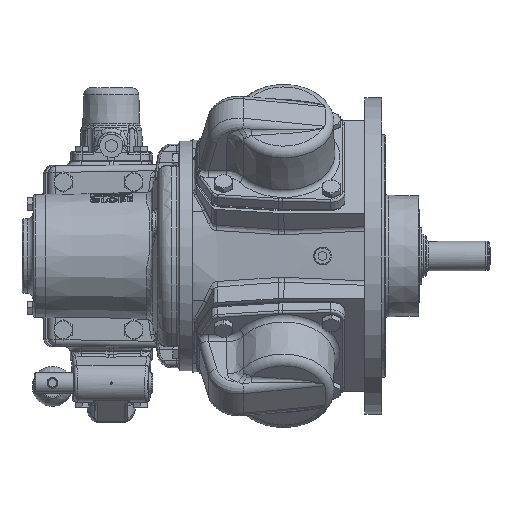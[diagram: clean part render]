
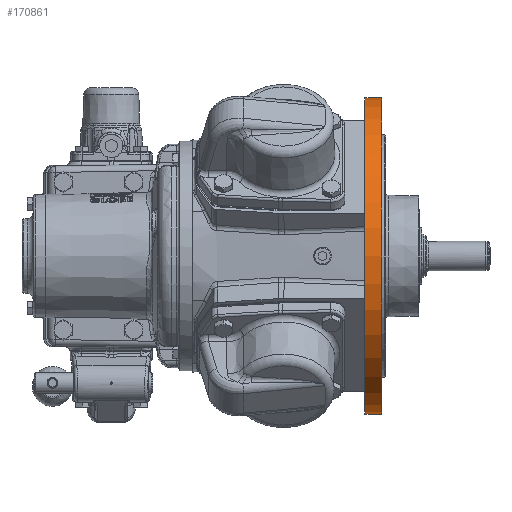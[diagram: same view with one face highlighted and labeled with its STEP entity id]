
A CAD part, front view. The second image highlights one B-rep face of the part: STEP entity #170861.
In plain terms, the highlighted cylindrical face has radius 150 mm (diameter 300 mm), a full revolution.
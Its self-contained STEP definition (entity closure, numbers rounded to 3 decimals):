
#13016 = CARTESIAN_POINT ( 'NONE',  ( 76.9, 0., 150. ) ) ;
#19467 = DIRECTION ( 'NONE',  ( -1., 0., 0. ) ) ;
#21115 = AXIS2_PLACEMENT_3D ( 'NONE', #113817, #19467, #58725 ) ;
#25374 = DIRECTION ( 'NONE',  ( 0., 0., 1. ) ) ;
#30267 = AXIS2_PLACEMENT_3D ( 'NONE', #55691, #105628, #40006 ) ;
#30911 = EDGE_CURVE ( 'NONE', #159182, #159182, #32155, .T. ) ;
#32155 = CIRCLE ( 'NONE', #21115, 150. ) ;
#38111 = AXIS2_PLACEMENT_3D ( 'NONE', #38403, #91793, #25374 ) ;
#38403 = CARTESIAN_POINT ( 'NONE',  ( 92.675, 0., 0. ) ) ;
#40006 = DIRECTION ( 'NONE',  ( 0., 0., 1. ) ) ;
#55691 = CARTESIAN_POINT ( 'NONE',  ( 32.527, 0., 0. ) ) ;
#57554 = CIRCLE ( 'NONE', #38111, 150. ) ;
#58725 = DIRECTION ( 'NONE',  ( 0., 0., 1. ) ) ;
#64501 = FACE_OUTER_BOUND ( 'NONE', #142013, .T. ) ;
#73171 = CARTESIAN_POINT ( 'NONE',  ( 92.675, 0., 150. ) ) ;
#74946 = ORIENTED_EDGE ( 'NONE', *, *, #81505, .T. ) ;
#81505 = EDGE_CURVE ( 'NONE', #101151, #101151, #57554, .T. ) ;
#87456 = ORIENTED_EDGE ( 'NONE', *, *, #30911, .F. ) ;
#91793 = DIRECTION ( 'NONE',  ( -1., 0., 0. ) ) ;
#101151 = VERTEX_POINT ( 'NONE', #73171 ) ;
#105628 = DIRECTION ( 'NONE',  ( -1., 0., 0. ) ) ;
#113817 = CARTESIAN_POINT ( 'NONE',  ( 76.9, 0., 0. ) ) ;
#117895 = FACE_OUTER_BOUND ( 'NONE', #122100, .T. ) ;
#122100 = EDGE_LOOP ( 'NONE', ( #87456 ) ) ;
#142013 = EDGE_LOOP ( 'NONE', ( #74946 ) ) ;
#159182 = VERTEX_POINT ( 'NONE', #13016 ) ;
#170861 = ADVANCED_FACE ( 'NONE', ( #64501, #117895 ), #171392, .T. ) ;
#171392 = CYLINDRICAL_SURFACE ( 'NONE', #30267, 150. ) ;
